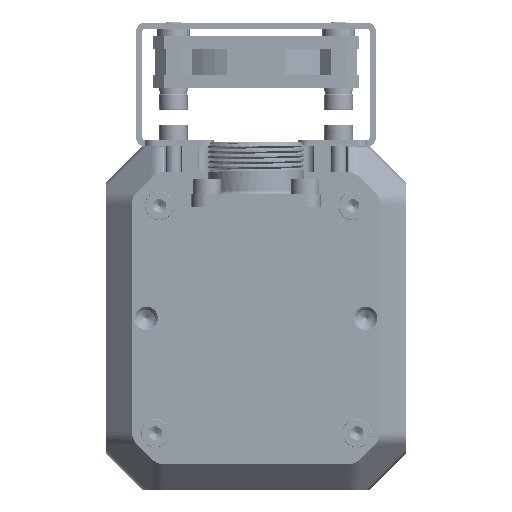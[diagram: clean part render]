
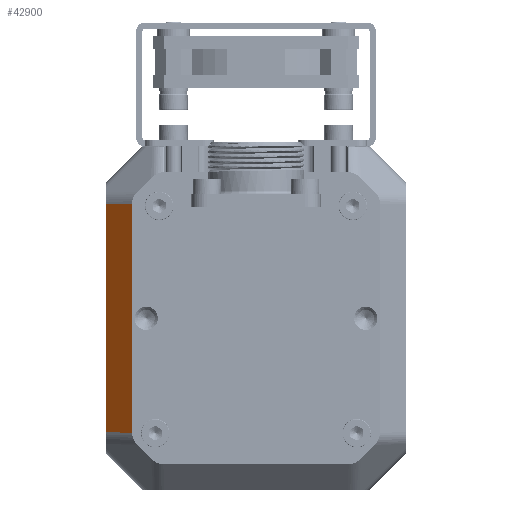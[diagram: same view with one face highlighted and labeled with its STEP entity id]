
A CAD part, front view. The second image highlights one B-rep face of the part: STEP entity #42900.
In plain terms, the highlighted planar face has unit normal (-0.707, -0.707, 0) as drawn and (0.707, 0, 0.707) by its records, which use the part's own axes.
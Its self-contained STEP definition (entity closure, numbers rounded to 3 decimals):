
#36716=DIRECTION('',(0.,1.,0.));
#36717=VECTOR('',#36716,44.094);
#36718=CARTESIAN_POINT('',(29.,-55.297,-5.));
#36719=LINE('',#36718,#36717);
#37565=CARTESIAN_POINT('',(29.,-55.297,-5.));
#37575=DIRECTION('',(-0.707,-0.02,0.707));
#37576=VECTOR('',#37575,7.072);
#37577=CARTESIAN_POINT('',(29.,-55.297,-5.));
#37578=LINE('',#37577,#37576);
#37582=DIRECTION('',(0.,1.,0.));
#37583=VECTOR('',#37582,44.371);
#37584=CARTESIAN_POINT('',(24.,-55.435,0.));
#37585=LINE('',#37584,#37583);
#37589=DIRECTION('',(0.707,-0.02,-0.707));
#37590=VECTOR('',#37589,7.072);
#37591=CARTESIAN_POINT('',(24.,-11.065,0.));
#37592=LINE('',#37591,#37590);
#37596=CARTESIAN_POINT('',(24.,-11.065,0.));
#39203=VERTEX_POINT('',#37596);
#39204=CARTESIAN_POINT('',(24.,-55.435,0.));
#39205=VERTEX_POINT('',#39204);
#39870=VERTEX_POINT('',#37565);
#39871=CARTESIAN_POINT('',(29.,-11.203,-5.));
#39872=VERTEX_POINT('',#39871);
#42888=CARTESIAN_POINT('',(26.5,-33.25,-2.5));
#42889=DIRECTION('',(0.707,0.,0.707));
#42890=DIRECTION('',(0.707,0.,-0.707));
#42891=AXIS2_PLACEMENT_3D('',#42888,#42889,#42890);
#42892=PLANE('',#42891);
#42893=ORIENTED_EDGE('',*,*,#42070,.F.);
#42894=ORIENTED_EDGE('',*,*,#42881,.T.);
#42895=ORIENTED_EDGE('',*,*,#40146,.T.);
#42897=ORIENTED_EDGE('',*,*,#42896,.T.);
#42898=EDGE_LOOP('',(#42893,#42894,#42895,#42897));
#42899=FACE_OUTER_BOUND('',#42898,.F.);
#40146=EDGE_CURVE('',#39205,#39203,#37585,.T.);
#42070=EDGE_CURVE('',#39870,#39872,#36719,.T.);
#42881=EDGE_CURVE('',#39870,#39205,#37578,.T.);
#42896=EDGE_CURVE('',#39203,#39872,#37592,.T.);
#42900=ADVANCED_FACE('',(#42899),#42892,.T.);
